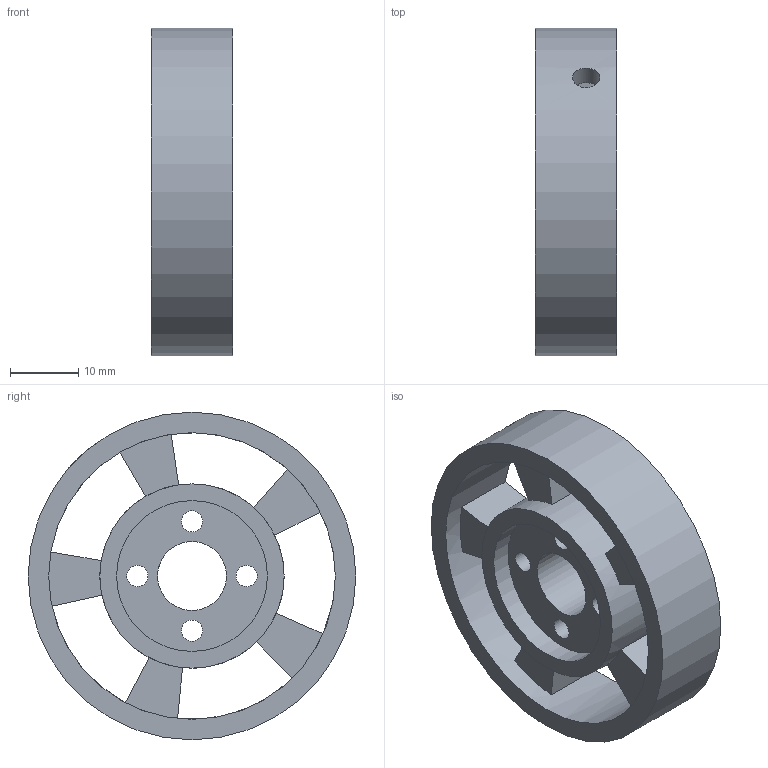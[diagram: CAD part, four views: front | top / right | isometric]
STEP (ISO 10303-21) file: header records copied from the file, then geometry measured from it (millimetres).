
FILE_DESCRIPTION(/* description */ (''),/* implementation_level */ '2;1');
FILE_NAME(/* name */ 'rueda_hub.step',/* time_stamp */ '2026-03-18T12:09:02+01:00',/* author */ (''),/* organization */ (''),/* preprocessor_version */ 'ST-DEVELOPER v20.1',/* originating_system */ 'Autodesk Translation Framework v14.24.0.0',/* authorisation */ '');
FILE_SCHEMA (('AUTOMOTIVE_DESIGN { 1 0 10303 214 3 1 1 }'));
Length unit declared in the file: millimetre
Products named in the file (2): Homero V1 (v5~recovered); rodes
Assembly tree (1 placements, depth 2):
  Homero V1 (v5~recovered)
    rodes
Bounding box: 12 x 48 x 48 mm (x, y, z)
Volume: 11741.4 mm3; surface area: 7773.7 mm2
Topology: 1 solids, 1 shells, 58 faces, 165 edges, 110 vertices
Faces by surface type: plane 47, cylinder 11
Full cylindrical faces by diameter (mm): 3.1 x4, 4 x2, 10.1 x1, 22.1 x1, 27 x1, 42 x1, 48 x1
Entity records: 2126 total; most frequent: CARTESIAN_POINT 468, ORIENTED_EDGE 330, DIRECTION 321, EDGE_CURVE 165, LINE 123, VECTOR 123, VERTEX_POINT 110, AXIS2_PLACEMENT_3D 99
